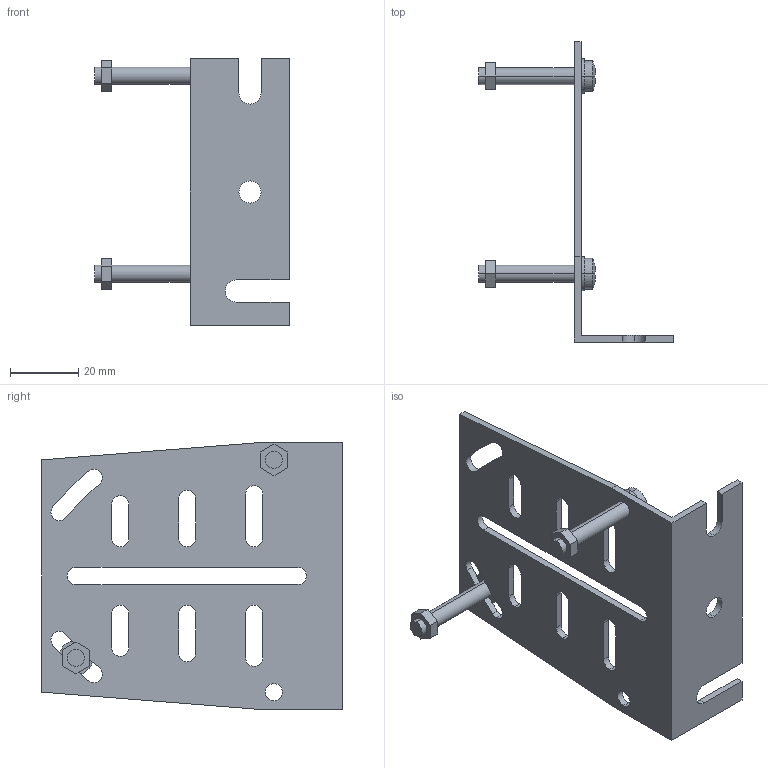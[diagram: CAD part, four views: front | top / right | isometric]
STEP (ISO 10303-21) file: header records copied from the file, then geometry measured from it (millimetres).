
FILE_DESCRIPTION (( 'STEP AP203' ), '1' );
FILE_NAME ('MS-EQ5-01.STEP', '2005-09-05T05:31:54', ( '' ), ( '' ), 'SwSTEP 2.0', 'SolidWorks 2004073', '' );
FILE_SCHEMA (( 'CONFIG_CONTROL_DESIGN' ));
Length unit declared in the file: millimetre
Products named in the file (4): M5L30add_fw_蹬怮椔; MS-EQ5-01_蹬怮椔; MS-EQ5-01; M5S8T3hex_nut_蹬怮椔
Assembly tree (5 placements, depth 2):
  MS-EQ5-01
    M5L30add_fw_蹬怮椔  x2
    MS-EQ5-01_蹬怮椔
    M5S8T3hex_nut_蹬怮椔  x2
Bounding box: 57 x 88 x 78 mm (x, y, z)
Volume: 16652.8 mm3; surface area: 18650.8 mm2
Topology: 5 solids, 5 shells, 137 faces, 365 edges, 242 vertices
Faces by surface type: plane 78, cylinder 55, sphere 4
Entity records: 3841 total; most frequent: DIRECTION 615, CARTESIAN_POINT 582, ORIENTED_EDGE 566, EDGE_CURVE 283, AXIS2_PLACEMENT_3D 221, VERTEX_POINT 188, VECTOR 173, LINE 173
